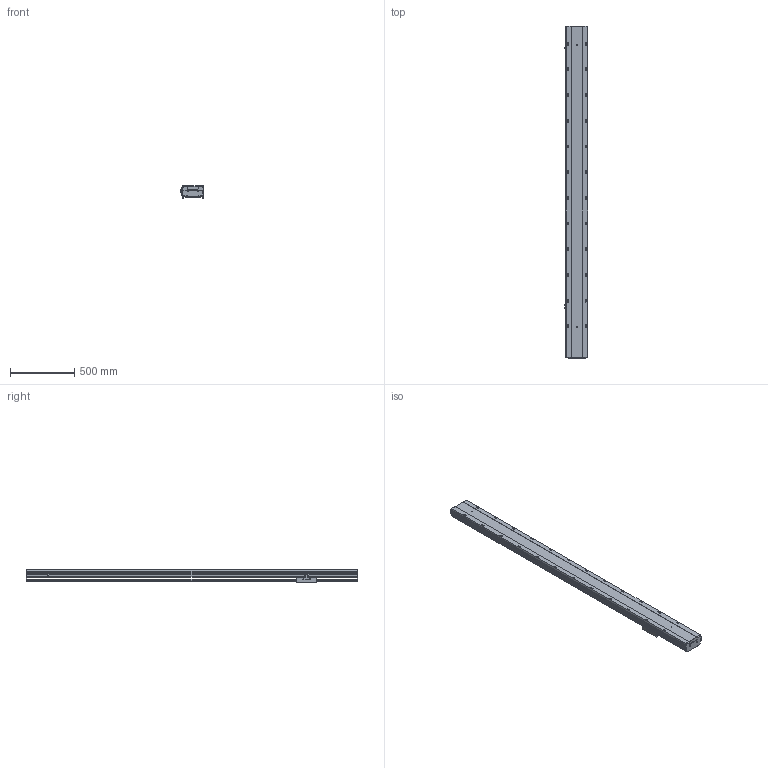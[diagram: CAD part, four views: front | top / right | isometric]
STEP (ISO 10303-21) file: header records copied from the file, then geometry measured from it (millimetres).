
FILE_DESCRIPTION (( 'STEP AP203' ), '1' );
FILE_NAME ('40.STEP', '2021-01-04T11:12:01', ( '' ), ( '' ), 'SwSTEP 2.0', 'SolidWorks 2016', '' );
FILE_SCHEMA (( 'CONFIG_CONTROL_DESIGN' ));
Length unit declared in the file: millimetre
Products named in the file (5): BTH17M-M-HZ; BTH17M-M-01; BTH17M-M-04; 40; BTH17M-M-菁釱
Assembly tree (7 placements, depth 2):
  40
    BTH17M-M-01  x2
    BTH17M-M-04  x3
    BTH17M-M-HZ
    BTH17M-M-菁釱
Bounding box: 183.7 x 2585 x 97 mm (x, y, z)
Volume: 16740089.6 mm3; surface area: 2694981.2 mm2
Topology: 9 solids, 9 shells, 1061 faces, 2947 edges, 1894 vertices
Faces by surface type: plane 559, cylinder 426, cone 76
Entity records: 25029 total; most frequent: CARTESIAN_POINT 4998, DIRECTION 4094, ORIENTED_EDGE 4064, EDGE_CURVE 2032, AXIS2_PLACEMENT_3D 1440, VERTEX_POINT 1336, LINE 1214, VECTOR 1214
